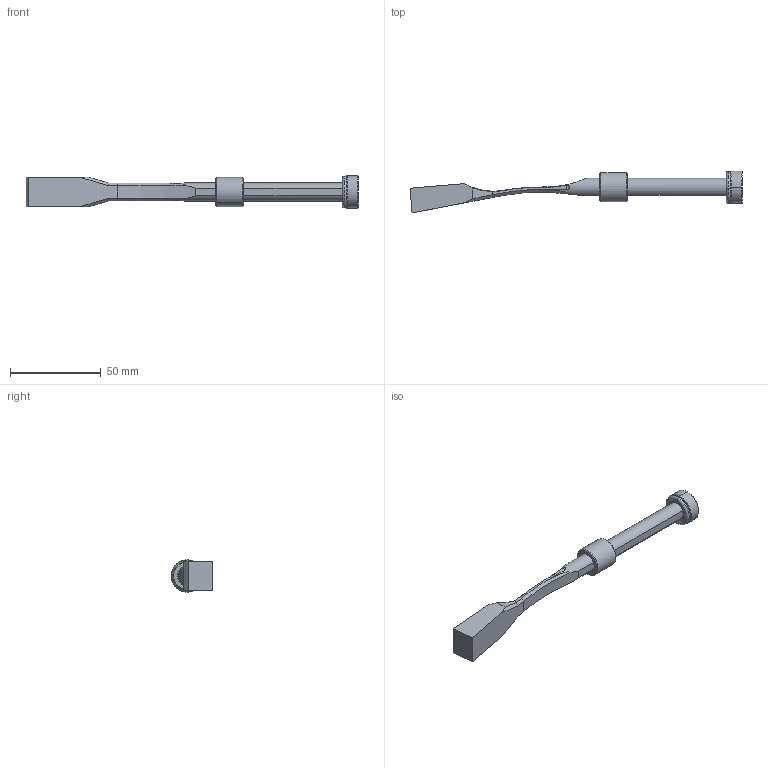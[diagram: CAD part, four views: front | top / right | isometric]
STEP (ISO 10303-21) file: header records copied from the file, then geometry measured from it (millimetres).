
FILE_DESCRIPTION (( 'STEP AP214' ), '1' );
FILE_NAME ('pw101630_ejection.STEP', '2021-07-15T09:23:21', ( '' ), ( '' ), 'SwSTEP 2.0', 'SolidWorks 2019', '' );
FILE_SCHEMA (( 'AUTOMOTIVE_DESIGN' ));
Length unit declared in the file: millimetre
Products named in the file (6): pw101630_ejection; 9FP1808M6; 9CS101615; 1DIN7984616_DIN 7984 - M6 x 16 --- 16C; 3JT12.5X2.5X17.5; 9PW101630
Assembly tree (5 placements, depth 2):
  pw101630_ejection
    9PW101630
    9CS101615
    9FP1808M6
    3JT12.5X2.5X17.5
    1DIN7984616_DIN 7984 - M6 x 16 --- 16C
Bounding box: 182.5 x 22.96 x 17.8 mm (x, y, z)
Volume: 18247.3 mm3; surface area: 10387.7 mm2
Topology: 5 solids, 5 shells, 458 faces, 1235 edges, 806 vertices
Faces by surface type: bspline 232, plane 118, cylinder 64, cone 28, torus 16
Entity records: 24723 total; most frequent: CARTESIAN_POINT 14979, ORIENTED_EDGE 2462, EDGE_CURVE 1231, DIRECTION 1035, B_SPLINE_CURVE_WITH_KNOTS 808, VERTEX_POINT 806, EDGE_LOOP 487, FACE_OUTER_BOUND 458
